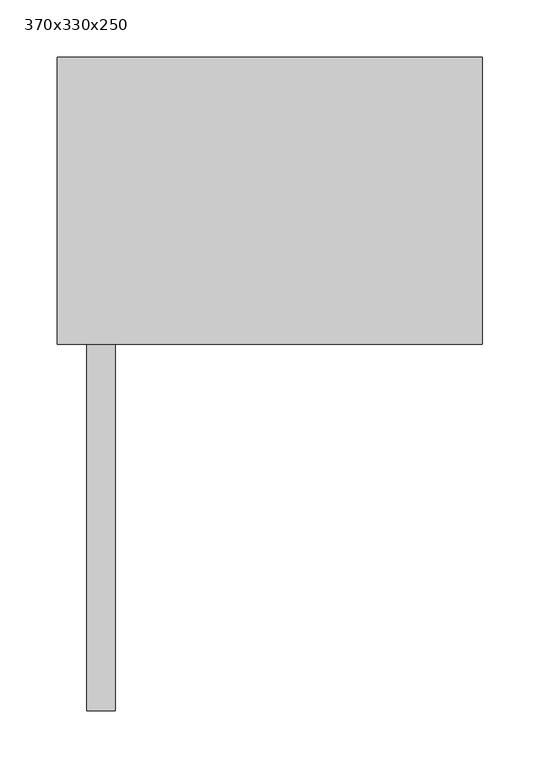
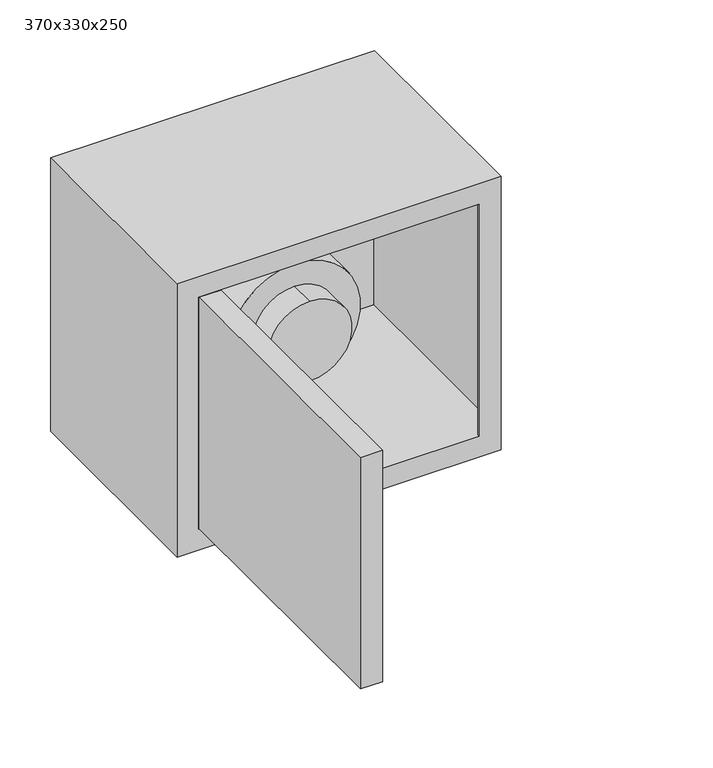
"""IFC4 building model written with IfcOpenShell, lengths in millimetres: furniture geometry, ME_ST_UN_connection box single connection_ACO : 370x330x250."""

from ifc_helpers import new_model, si_unit, point, frame, frame_2d, origin, place, context, project, spatial, polyline, circle_curve, trimmed, segment, composite_curve, outline, extrude, source, transform, mapped, element, save
from ifc_brep_helpers import plane_surface, cylinder_surface, revolved_surface, advanced_brep


def furniture_370x330x250_330b71c9(model_context):
    return source(origin(), model_context, "Body", "SolidModel", [
        extrude(outline(composite_curve([segment(trimmed(circle_curve(frame_2d((175.0, -10.0)), 25.0), [point((150.0, -10.0))], [point((200.0, -10.0))], False, "CARTESIAN"), True, "CONTINUOUS"), segment(trimmed(circle_curve(frame_2d((175.0, -10.0)), 25.0), [point((200.0, -10.0))], [point((150.0, -10.0))], False, "CARTESIAN"), True, "CONTINUOUS")], self_intersect=False)), frame((0.0, 148.0, 0.0), z_axis=(0.0, 1.0, 0.0), x_axis=(0.0, 0.0, 1.0)), (0.0, 0.0, 1.0), 102.0),
        advanced_brep(
        [(-10.0, 148.0, 127.0), (-10.0, 148.0, 223.0), (-10.0, 40.0, 127.0), (-10.0, 40.0, 223.0), (-10.0, 118.0, 223.0), (-10.0, 118.0, 127.0), (-10.0, 70.0, 127.0), (-10.0, 70.0, 223.0), (-10.0, 118.0, 100.0), (-10.0, 118.0, 250.0), (-10.0, 70.0, 100.0), (-10.0, 70.0, 250.0)],
        [
            (0, 1, circle_curve(frame((-10.0, 148.0, 175.0), z_axis=(0.0, 1.0, 0.0), x_axis=(0.0, 0.0, 1.0)), 48.0)),
            (1, 0, circle_curve(frame((-10.0, 148.0, 175.0), z_axis=(0.0, 1.0, 0.0), x_axis=(0.0, 0.0, 1.0)), 48.0)),
            (2, 3, circle_curve(frame((-10.0, 40.0, 175.0), z_axis=(0.0, -1.0, 0.0), x_axis=(0.0, 0.0, 1.0)), 48.0)),
            (3, 2, circle_curve(frame((-10.0, 40.0, 175.0), z_axis=(0.0, -1.0, 0.0), x_axis=(0.0, 0.0, 1.0)), 48.0)),
            (1, 4),
            (4, 5, circle_curve(frame((-10.0, 118.0, 175.0), z_axis=(0.0, 1.0, 0.0), x_axis=(0.0, 0.0, 1.0)), 48.0)),
            (5, 0),
            (2, 6),
            (6, 7, circle_curve(frame((-10.0, 70.0, 175.0), z_axis=(0.0, -1.0, 0.0), x_axis=(0.0, 0.0, 1.0)), 48.0)),
            (7, 3),
            (5, 4, circle_curve(frame((-10.0, 118.0, 175.0), z_axis=(0.0, 1.0, 0.0), x_axis=(0.0, 0.0, 1.0)), 48.0)),
            (7, 6, circle_curve(frame((-10.0, 70.0, 175.0), z_axis=(0.0, -1.0, 0.0), x_axis=(0.0, 0.0, 1.0)), 48.0)),
            (8, 9, circle_curve(frame((-10.0, 118.0, 175.0), z_axis=(0.0, 1.0, 0.0), x_axis=(0.0, 0.0, 1.0)), 75.0)),
            (9, 8, circle_curve(frame((-10.0, 118.0, 175.0), z_axis=(0.0, 1.0, 0.0), x_axis=(0.0, 0.0, 1.0)), 75.0)),
            (10, 11, circle_curve(frame((-10.0, 70.0, 175.0), z_axis=(0.0, -1.0, 0.0), x_axis=(0.0, 0.0, 1.0)), 75.0)),
            (11, 10, circle_curve(frame((-10.0, 70.0, 175.0), z_axis=(0.0, -1.0, 0.0), x_axis=(0.0, 0.0, 1.0)), 75.0)),
            (9, 11),
            (10, 8),
        ],
        [
            plane_surface(frame((-10.0, 148.0, 223.0), z_axis=(0.0, 1.0, 0.0), x_axis=(1.0, 0.0, 0.0))),
            plane_surface(frame((-10.0, 40.0, 223.0), z_axis=(0.0, -1.0, 0.0), x_axis=(-1.0, 0.0, 0.0))),
            cylinder_surface(frame((-10.0, 148.0, 175.0), z_axis=(0.0, -1.0, 0.0), x_axis=(0.0, 0.0, 1.0)), 48.0),
            plane_surface(frame((-10.0, 118.0, 250.0), z_axis=(0.0, 1.0, 0.0), x_axis=(1.0, 0.0, 0.0))),
            plane_surface(frame((-10.0, 70.0, 250.0), z_axis=(0.0, -1.0, 0.0), x_axis=(-1.0, 0.0, 0.0))),
            cylinder_surface(frame((-10.0, 118.0, 175.0), z_axis=(0.0, -1.0, 0.0), x_axis=(0.0, 0.0, 1.0)), 75.0),
        ],
        [
            (0, [[1, 2]]),
            (1, [[3, 4]]),
            (2, [[-2, 5, 6, 7]]),
            (2, [[-3, 8, 9, 10]]),
            (2, [[-1, -7, 11, -5]]),
            (2, [[-4, -10, 12, -8]]),
            (3, [[13, 14], [-6, -11]]),
            (4, [[15, 16], [-9, -12]]),
            (5, [[-14, 17, -15, 18]]),
            (5, [[-13, -18, -16, -17]]),
        ],
    ),
        extrude(outline(polyline([(-159.5, -319.0), (-159.5, 0.0), (-134.5, 0.0), (-134.5, -319.0), (-159.5, -319.0)])), frame((0.0, 0.0, 25.5), z_axis=(0.0, 0.0, 1.0), x_axis=(1.0, 0.0, 0.0)), (0.0, 0.0, 1.0), 279.0),
        advanced_brep(
        [(185.0, 250.0, 330.0), (-185.0, 250.0, 330.0), (-185.0, 0.0, 330.0), (185.0, 0.0, 330.0), (185.0, 250.0, 0.0), (185.0, 0.0, 0.0), (-185.0, 0.0, 0.0), (-185.0, 250.0, 0.0), (-56.0, 250.0, 175.0), (36.0, 250.0, 175.0), (70.0, 250.0, 175.0), (110.0, 250.0, 175.0), (-160.0, 0.0, 305.0), (160.0, 0.0, 305.0), (160.0, 0.0, 25.0), (-160.0, 0.0, 25.0), (183.0, 248.0, 305.0), (183.0, 2.0, 305.0), (160.0, 2.0, 305.0), (-160.0, 2.0, 305.0), (-183.0, 2.0, 305.0), (-183.0, 248.0, 305.0), (183.0, 248.0, 25.0), (-183.0, 248.0, 25.0), (-183.0, 2.0, 25.0), (-160.0, 2.0, 25.0), (160.0, 2.0, 25.0), (183.0, 2.0, 25.0), (36.0, 248.0, 175.0), (-56.0, 248.0, 175.0), (110.0, 248.0, 175.0), (70.0, 248.0, 175.0)],
        [
            (0, 1),
            (1, 2),
            (2, 3),
            (3, 0),
            (4, 5),
            (5, 6),
            (6, 7),
            (7, 4),
            (0, 4),
            (7, 1),
            (8, 9, circle_curve(frame((-10.0, 250.0, 175.0), z_axis=(0.0, -1.0, 0.0), x_axis=(1.0, 0.0, 0.0)), 46.0)),
            (9, 8, circle_curve(frame((-10.0, 250.0, 175.0), z_axis=(0.0, -1.0, 0.0), x_axis=(1.0, 0.0, 0.0)), 46.0)),
            (10, 11, circle_curve(frame((90.0, 250.0, 175.0), z_axis=(0.0, -1.0, 0.0), x_axis=(1.0, 0.0, 0.0)), 20.0)),
            (11, 10, circle_curve(frame((90.0, 250.0, 175.0), z_axis=(0.0, -1.0, 0.0), x_axis=(1.0, 0.0, 0.0)), 20.0)),
            (6, 2),
            (5, 3),
            (12, 13),
            (13, 14),
            (14, 15),
            (15, 12),
            (16, 17),
            (17, 18),
            (18, 13),
            (12, 19),
            (19, 20),
            (20, 21),
            (21, 16),
            (22, 23),
            (23, 24),
            (24, 25),
            (25, 15),
            (14, 26),
            (26, 27),
            (27, 22),
            (21, 23),
            (22, 16),
            (28, 29, circle_curve(frame((-10.0, 248.0, 175.0), z_axis=(0.0, 1.0, 0.0), x_axis=(1.0, 0.0, 0.0)), 46.0)),
            (29, 28, circle_curve(frame((-10.0, 248.0, 175.0), z_axis=(0.0, 1.0, 0.0), x_axis=(1.0, 0.0, 0.0)), 46.0)),
            (30, 31, circle_curve(frame((90.0, 248.0, 175.0), z_axis=(0.0, 1.0, 0.0), x_axis=(1.0, 0.0, 0.0)), 20.0)),
            (31, 30, circle_curve(frame((90.0, 248.0, 175.0), z_axis=(0.0, 1.0, 0.0), x_axis=(1.0, 0.0, 0.0)), 20.0)),
            (27, 17),
            (20, 24),
            (19, 25),
            (18, 26),
            (28, 9),
            (8, 29),
            (30, 11),
            (10, 31),
        ],
        [
            plane_surface(frame((-185.0, 250.0, 330.0), z_axis=(0.0, 0.0, 1.0), x_axis=(-1.0, 0.0, 0.0))),
            plane_surface(frame((-185.0, 250.0, 0.0), z_axis=(0.0, 0.0, -1.0), x_axis=(1.0, 0.0, 0.0))),
            plane_surface(frame((185.0, 250.0, 330.0), z_axis=(0.0, 1.0, 0.0), x_axis=(0.0, 0.0, -1.0))),
            plane_surface(frame((-185.0, 250.0, 330.0), z_axis=(-1.0, 0.0, 0.0), x_axis=(0.0, 0.0, -1.0))),
            plane_surface(frame((-185.0, 0.0, 330.0), z_axis=(0.0, -1.0, 0.0), x_axis=(0.0, 0.0, -1.0))),
            plane_surface(frame((185.0, 0.0, 330.0), z_axis=(1.0, 0.0, 0.0), x_axis=(0.0, 0.0, -1.0))),
            plane_surface(frame((-183.0, 248.0, 305.0), z_axis=(0.0, 0.0, -1.0), x_axis=(-1.0, 0.0, 0.0))),
            plane_surface(frame((-183.0, 248.0, 25.0), z_axis=(0.0, 0.0, 1.0), x_axis=(1.0, 0.0, 0.0))),
            plane_surface(frame((183.0, 248.0, 305.0), z_axis=(0.0, -1.0, 0.0), x_axis=(0.0, 0.0, -1.0))),
            plane_surface(frame((183.0, 2.0, 305.0), z_axis=(-1.0, 0.0, 0.0), x_axis=(0.0, 0.0, -1.0))),
            plane_surface(frame((-183.0, 248.0, 305.0), z_axis=(1.0, 0.0, 0.0), x_axis=(0.0, 0.0, -1.0))),
            plane_surface(frame((-183.0, 2.0, 305.0), z_axis=(0.0, 1.0, 0.0), x_axis=(0.0, 0.0, -1.0))),
            plane_surface(frame((-160.0, 2.0, 305.0), z_axis=(1.0, 0.0, 0.0), x_axis=(0.0, 0.0, -1.0))),
            plane_surface(frame((160.0, 0.0, 305.0), z_axis=(-1.0, 0.0, 0.0), x_axis=(0.0, 0.0, -1.0))),
            plane_surface(frame((160.0, 2.0, 305.0), z_axis=(0.0, 1.0, 0.0), x_axis=(0.0, 0.0, -1.0))),
            revolved_surface(polyline([(36.0, 248.0, 175.0), (36.0, 250.0, 175.0)]), (-10.0, 250.0, 175.0), (0.0, -1.0, 0.0)),
            revolved_surface(polyline([(110.0, 248.0, 175.0), (110.0, 250.0, 175.0)]), (90.0, 250.0, 175.0), (0.0, -1.0, 0.0)),
        ],
        [
            (0, [[1, 2, 3, 4]]),
            (1, [[5, 6, 7, 8]]),
            (2, [[-1, 9, -8, 10], [11, 12], [13, 14]]),
            (3, [[-2, -10, -7, 15]]),
            (4, [[-3, -15, -6, 16], [17, 18, 19, 20]]),
            (5, [[-4, -16, -5, -9]]),
            (6, [[21, 22, 23, -17, 24, 25, 26, 27]]),
            (7, [[28, 29, 30, 31, -19, 32, 33, 34]]),
            (8, [[-27, 35, -28, 36], [37, 38], [39, 40]]),
            (9, [[-21, -36, -34, 41]]),
            (10, [[-26, 42, -29, -35]]),
            (11, [[-25, 43, -30, -42]]),
            (12, [[-24, -20, -31, -43]]),
            (13, [[-23, 44, -32, -18]]),
            (14, [[-22, -41, -33, -44]]),
            (15, [[45, -11, 46, -37]]),
            (15, [[-45, -38, -46, -12]]),
            (16, [[47, -13, 48, -39]]),
            (16, [[-47, -40, -48, -14]]),
        ],
    ),
    ])


if __name__ == "__main__":
    model = new_model("IFC4")
    model_context = context("Model", 3, world=origin())
    ifc_project = project(units=[si_unit("LENGTHUNIT", "METRE", prefix="MILLI")], contexts=[model_context])
    site = spatial("IfcSite", under=ifc_project)
    building = spatial("IfcBuilding", under=site)
    placement = place(None, origin())
    furniture_370x330x250_shape = furniture_370x330x250_330b71c9(model_context)
    element("IfcFurniture", 1, ObjectType="ME_ST_UN_connection box single connection_ACO : 370x330x250", at=placement, inside=building, context=model_context, shape_type="MappedRepresentation", body=[
        mapped(furniture_370x330x250_shape, transform((0.0, 0.0, 0.0), x_axis=(1.0, 0.0, 0.0), y_axis=(0.0, 1.0, 0.0), z_axis=(0.0, 0.0, 1.0))),
    ])
    save(model, "model.ifc")
